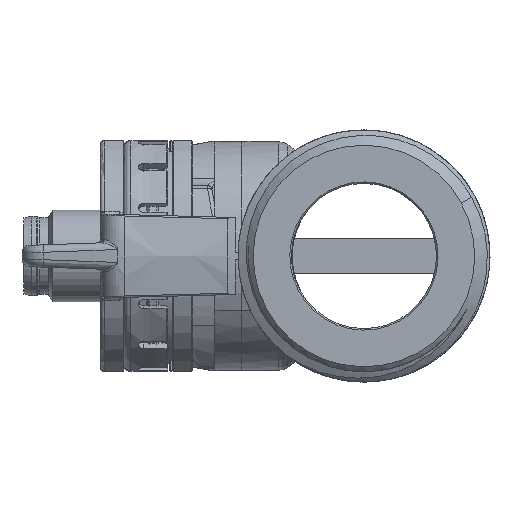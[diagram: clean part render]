
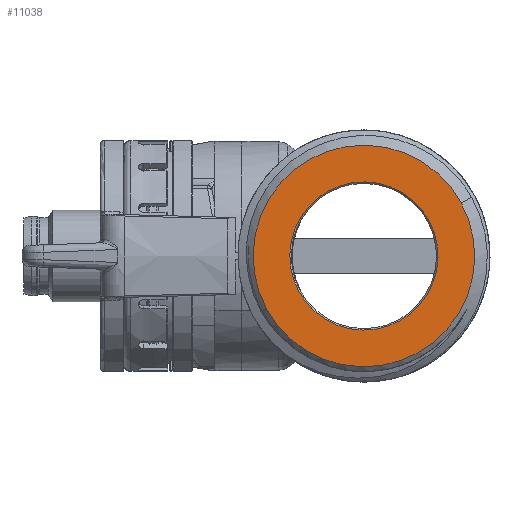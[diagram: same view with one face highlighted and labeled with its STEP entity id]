
A CAD part, left-side view. The second image highlights one B-rep face of the part: STEP entity #11038.
In plain terms, the highlighted planar face has unit normal (-1, 0, 0).
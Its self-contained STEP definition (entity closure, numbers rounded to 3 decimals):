
#8336=FACE_BOUND('',#13842,.T.);
#8337=FACE_BOUND('',#13843,.T.);
#8571=PLANE('',#30480);
#11038=ADVANCED_FACE('CRP.L613_D200808MM8801',(#8336,#8337),#8571,.T.);
#13842=EDGE_LOOP('',(#19988,#19989));
#13843=EDGE_LOOP('',(#19990,#19991));
#19988=ORIENTED_EDGE('',*,*,#27121,.T.);
#19989=ORIENTED_EDGE('',*,*,#27115,.T.);
#19990=ORIENTED_EDGE('',*,*,#27122,.F.);
#19991=ORIENTED_EDGE('',*,*,#27123,.F.);
#24427=VERTEX_POINT('',#50397);
#24428=VERTEX_POINT('',#50399);
#24432=VERTEX_POINT('',#50429);
#24433=VERTEX_POINT('',#50430);
#27115=EDGE_CURVE('',#24428,#24427,#29115,.T.);
#27121=EDGE_CURVE('',#24427,#24428,#29117,.T.);
#27122=EDGE_CURVE('',#24432,#24433,#29118,.T.);
#27123=EDGE_CURVE('',#24433,#24432,#29119,.T.);
#29115=CIRCLE('',#30473,14.5);
#29117=CIRCLE('',#30476,14.5);
#29118=CIRCLE('',#30478,9.7);
#29119=CIRCLE('',#30479,9.7);
#30473=AXIS2_PLACEMENT_3D('',#50398,#34033,#34034);
#30476=AXIS2_PLACEMENT_3D('',#50426,#34040,#34041);
#30478=AXIS2_PLACEMENT_3D('',#50428,#34044,#34045);
#30479=AXIS2_PLACEMENT_3D('',#50431,#34046,#34047);
#30480=AXIS2_PLACEMENT_3D('',#50432,#34048,#34049);
#34033=DIRECTION('',(-1.,0.,0.));
#34034=DIRECTION('',(0.,1.,0.));
#34040=DIRECTION('',(-1.,0.,0.));
#34041=DIRECTION('',(0.,1.,0.));
#34044=DIRECTION('',(-1.,0.,0.));
#34045=DIRECTION('',(0.,-1.,0.));
#34046=DIRECTION('',(-1.,0.,0.));
#34047=DIRECTION('',(0.,-1.,0.));
#34048=DIRECTION('',(-1.,0.,0.));
#34049=DIRECTION('',(0.,0.,-1.));
#50397=CARTESIAN_POINT('',(-40.6,-34.625,6.952));
#50398=CARTESIAN_POINT('',(-40.6,-21.9,0.));
#50399=CARTESIAN_POINT('',(-40.6,-9.175,-6.952));
#50426=CARTESIAN_POINT('',(-40.6,-21.9,0.));
#50428=CARTESIAN_POINT('',(-40.6,-21.9,0.));
#50429=CARTESIAN_POINT('',(-40.6,-13.387,-4.65));
#50430=CARTESIAN_POINT('',(-40.6,-30.413,4.65));
#50431=CARTESIAN_POINT('',(-40.6,-21.9,0.));
#50432=CARTESIAN_POINT('',(-40.6,-12.2,0.));
